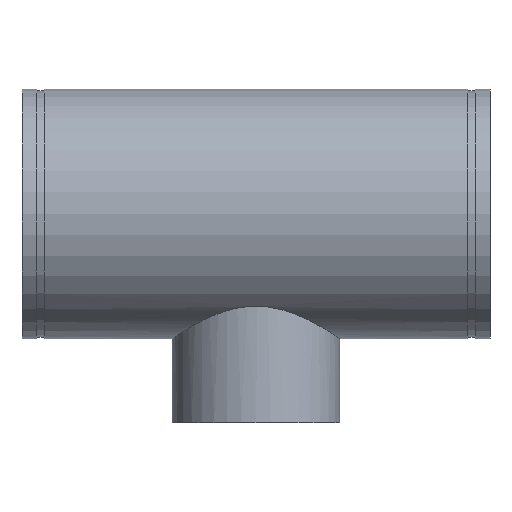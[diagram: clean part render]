
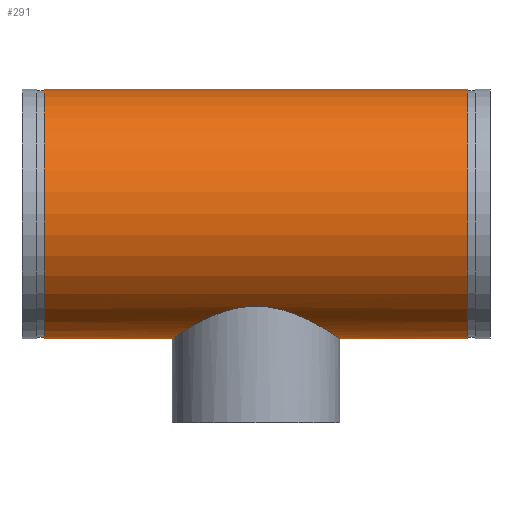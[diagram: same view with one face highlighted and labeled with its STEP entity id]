
A CAD part, top view. The second image highlights one B-rep face of the part: STEP entity #291.
In plain terms, the highlighted cylindrical face has radius 203.2 mm (diameter 406.4 mm), a full revolution.
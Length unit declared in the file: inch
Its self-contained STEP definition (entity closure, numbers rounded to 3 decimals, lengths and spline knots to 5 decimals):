
#45=B_SPLINE_CURVE_WITH_KNOTS('',3,(#511,#512,#513,#514,#515,#516,#517,
#518,#519,#520,#521,#522,#523,#524,#525,#526,#527,#528,#529,#530,#531,#532,
#533,#534,#535,#536,#537,#538,#539,#540,#541,#542,#543,#544,#545,#546,#547,
#548,#549,#550,#551,#552,#553,#554,#555,#556,#557,#558,#559,#560,#561,#562,
#563,#564,#565,#566),.UNSPECIFIED.,.F.,.F.,(4,2,2,2,2,2,2,2,2,2,2,2,2,2,
2,2,2,2,2,2,2,2,2,2,2,2,2,4),(0.,1.34803,2.69606,5.39211,
8.08817,10.78423,13.44938,16.11454,18.7797,
21.44486,24.11002,26.77518,29.44034,32.1055,
34.80155,37.49761,40.19366,41.54169,42.88972,
44.23775,45.58578,48.28183,50.97789,53.67395,
56.33911,59.00426,61.66942,64.33458),
 .UNSPECIFIED.);
#46=B_SPLINE_CURVE_WITH_KNOTS('',3,(#567,#568,#569,#570,#571,#572,#573,
#574,#575,#576,#577,#578,#579,#580,#581,#582,#583,#584,#585,#586),
 .UNSPECIFIED.,.F.,.F.,(4,2,2,2,2,2,2,2,2,4),(64.33458,66.99974,
69.6649,72.33006,74.99522,77.69127,80.38733,
83.08339,84.43141,85.77944),.UNSPECIFIED.);
#51=LINE('',#508,#59);
#59=VECTOR('',#410,8.);
#67=CYLINDRICAL_SURFACE('',#338,8.);
#77=FACE_BOUND('',#108,.T.);
#88=FACE_OUTER_BOUND('',#107,.T.);
#107=EDGE_LOOP('',(#221,#222,#223,#224));
#108=EDGE_LOOP('',(#225,#226));
#121=CIRCLE('',#321,8.);
#132=CIRCLE('',#337,8.);
#141=VERTEX_POINT('',#476);
#152=VERTEX_POINT('',#505);
#153=VERTEX_POINT('',#509);
#154=VERTEX_POINT('',#510);
#165=EDGE_CURVE('',#141,#141,#121,.T.);
#178=EDGE_CURVE('',#152,#152,#132,.T.);
#179=EDGE_CURVE('',#152,#141,#51,.T.);
#180=EDGE_CURVE('',#153,#154,#45,.T.);
#181=EDGE_CURVE('',#154,#153,#46,.T.);
#221=ORIENTED_EDGE('',*,*,#178,.T.);
#222=ORIENTED_EDGE('',*,*,#179,.T.);
#223=ORIENTED_EDGE('',*,*,#165,.T.);
#224=ORIENTED_EDGE('',*,*,#179,.F.);
#225=ORIENTED_EDGE('',*,*,#180,.F.);
#226=ORIENTED_EDGE('',*,*,#181,.F.);
#291=ADVANCED_FACE('',(#88,#77),#67,.T.);
#321=AXIS2_PLACEMENT_3D('',#477,#372,#373);
#337=AXIS2_PLACEMENT_3D('',#506,#406,#407);
#338=AXIS2_PLACEMENT_3D('',#507,#408,#409);
#372=DIRECTION('center_axis',(-1.,0.,0.));
#373=DIRECTION('ref_axis',(0.,-1.,0.));
#406=DIRECTION('center_axis',(1.,0.,0.));
#407=DIRECTION('ref_axis',(0.,-1.,0.));
#408=DIRECTION('center_axis',(-1.,0.,0.));
#409=DIRECTION('ref_axis',(0.,-1.,0.));
#410=DIRECTION('',(1.,0.,0.));
#476=CARTESIAN_POINT('',(13.562,8.,0.));
#477=CARTESIAN_POINT('Origin',(13.562,0.,0.));
#505=CARTESIAN_POINT('',(-13.562,8.,0.));
#506=CARTESIAN_POINT('Origin',(-13.562,0.,0.));
#507=CARTESIAN_POINT('Origin',(15.,0.,0.));
#508=CARTESIAN_POINT('',(15.,8.,0.));
#509=CARTESIAN_POINT('',(0.,-5.92532,-5.375));
#510=CARTESIAN_POINT('',(-5.375,-8.,0.));
#511=CARTESIAN_POINT('Ctrl Pts',(0.,-5.92532,
-5.375));
#512=CARTESIAN_POINT('Ctrl Pts',(0.17691,-5.92532,-5.375));
#513=CARTESIAN_POINT('Ctrl Pts',(0.35517,-5.9333,-5.36624));
#514=CARTESIAN_POINT('Ctrl Pts',(0.71118,-5.96521,-5.33075));
#515=CARTESIAN_POINT('Ctrl Pts',(0.88894,-5.98912,-5.30402));
#516=CARTESIAN_POINT('Ctrl Pts',(1.41691,-6.08252,-5.1973));
#517=CARTESIAN_POINT('Ctrl Pts',(1.76182,-6.17396,-5.0905));
#518=CARTESIAN_POINT('Ctrl Pts',(2.41741,-6.392,-4.81387));
#519=CARTESIAN_POINT('Ctrl Pts',(2.72877,-6.51843,-4.64381));
#520=CARTESIAN_POINT('Ctrl Pts',(3.30355,-6.77918,-4.25414));
#521=CARTESIAN_POINT('Ctrl Pts',(3.56697,-6.91332,-4.03443));
#522=CARTESIAN_POINT('Ctrl Pts',(4.03175,-7.16426,-3.56965));
#523=CARTESIAN_POINT('Ctrl Pts',(4.25096,-7.29079,-3.30768));
#524=CARTESIAN_POINT('Ctrl Pts',(4.64152,-7.5252,-2.73271));
#525=CARTESIAN_POINT('Ctrl Pts',(4.81288,-7.63294,-2.41969));
#526=CARTESIAN_POINT('Ctrl Pts',(5.0912,-7.81142,-1.76023));
#527=CARTESIAN_POINT('Ctrl Pts',(5.19838,-7.88224,-1.41309));
#528=CARTESIAN_POINT('Ctrl Pts',(5.34031,-7.97656,-0.70787));
#529=CARTESIAN_POINT('Ctrl Pts',(5.375,-8.,-0.34976));
#530=CARTESIAN_POINT('Ctrl Pts',(5.375,-8.,0.34976));
#531=CARTESIAN_POINT('Ctrl Pts',(5.34031,-7.97656,0.70787));
#532=CARTESIAN_POINT('Ctrl Pts',(5.19838,-7.88224,1.41309));
#533=CARTESIAN_POINT('Ctrl Pts',(5.0912,-7.81142,1.76023));
#534=CARTESIAN_POINT('Ctrl Pts',(4.81288,-7.63294,2.41969));
#535=CARTESIAN_POINT('Ctrl Pts',(4.64152,-7.5252,2.73271));
#536=CARTESIAN_POINT('Ctrl Pts',(4.25096,-7.29079,3.30768));
#537=CARTESIAN_POINT('Ctrl Pts',(4.03175,-7.16426,3.56965));
#538=CARTESIAN_POINT('Ctrl Pts',(3.56697,-6.91332,4.03443));
#539=CARTESIAN_POINT('Ctrl Pts',(3.30355,-6.77918,4.25414));
#540=CARTESIAN_POINT('Ctrl Pts',(2.72877,-6.51843,4.64381));
#541=CARTESIAN_POINT('Ctrl Pts',(2.41741,-6.392,4.81387));
#542=CARTESIAN_POINT('Ctrl Pts',(1.76182,-6.17396,5.0905));
#543=CARTESIAN_POINT('Ctrl Pts',(1.41691,-6.08252,5.1973));
#544=CARTESIAN_POINT('Ctrl Pts',(0.88894,-5.98912,5.30402));
#545=CARTESIAN_POINT('Ctrl Pts',(0.71118,-5.96521,5.33075));
#546=CARTESIAN_POINT('Ctrl Pts',(0.35517,-5.9333,5.36624));
#547=CARTESIAN_POINT('Ctrl Pts',(0.17691,-5.92532,5.375));
#548=CARTESIAN_POINT('Ctrl Pts',(-0.17691,-5.92532,5.375));
#549=CARTESIAN_POINT('Ctrl Pts',(-0.35517,-5.9333,5.36624));
#550=CARTESIAN_POINT('Ctrl Pts',(-0.71118,-5.96521,5.33075));
#551=CARTESIAN_POINT('Ctrl Pts',(-0.88894,-5.98912,5.30402));
#552=CARTESIAN_POINT('Ctrl Pts',(-1.41691,-6.08252,5.1973));
#553=CARTESIAN_POINT('Ctrl Pts',(-1.76182,-6.17396,5.0905));
#554=CARTESIAN_POINT('Ctrl Pts',(-2.41741,-6.392,4.81387));
#555=CARTESIAN_POINT('Ctrl Pts',(-2.72877,-6.51843,4.64381));
#556=CARTESIAN_POINT('Ctrl Pts',(-3.30355,-6.77918,4.25414));
#557=CARTESIAN_POINT('Ctrl Pts',(-3.56697,-6.91332,4.03443));
#558=CARTESIAN_POINT('Ctrl Pts',(-4.03175,-7.16426,3.56965));
#559=CARTESIAN_POINT('Ctrl Pts',(-4.25096,-7.29079,3.30768));
#560=CARTESIAN_POINT('Ctrl Pts',(-4.64152,-7.5252,2.73271));
#561=CARTESIAN_POINT('Ctrl Pts',(-4.81288,-7.63294,2.41969));
#562=CARTESIAN_POINT('Ctrl Pts',(-5.0912,-7.81142,1.76023));
#563=CARTESIAN_POINT('Ctrl Pts',(-5.19838,-7.88224,1.41309));
#564=CARTESIAN_POINT('Ctrl Pts',(-5.34031,-7.97656,0.70787));
#565=CARTESIAN_POINT('Ctrl Pts',(-5.375,-8.,0.34976));
#566=CARTESIAN_POINT('Ctrl Pts',(-5.375,-8.,0.));
#567=CARTESIAN_POINT('Ctrl Pts',(-5.375,-8.,0.));
#568=CARTESIAN_POINT('Ctrl Pts',(-5.375,-8.,-0.34976));
#569=CARTESIAN_POINT('Ctrl Pts',(-5.34031,-7.97656,-0.70787));
#570=CARTESIAN_POINT('Ctrl Pts',(-5.19838,-7.88224,-1.41309));
#571=CARTESIAN_POINT('Ctrl Pts',(-5.0912,-7.81142,-1.76023));
#572=CARTESIAN_POINT('Ctrl Pts',(-4.81288,-7.63294,-2.41969));
#573=CARTESIAN_POINT('Ctrl Pts',(-4.64152,-7.5252,-2.73271));
#574=CARTESIAN_POINT('Ctrl Pts',(-4.25096,-7.29079,-3.30768));
#575=CARTESIAN_POINT('Ctrl Pts',(-4.03175,-7.16426,-3.56965));
#576=CARTESIAN_POINT('Ctrl Pts',(-3.56697,-6.91332,-4.03443));
#577=CARTESIAN_POINT('Ctrl Pts',(-3.30355,-6.77918,-4.25414));
#578=CARTESIAN_POINT('Ctrl Pts',(-2.72877,-6.51843,-4.64381));
#579=CARTESIAN_POINT('Ctrl Pts',(-2.41741,-6.392,-4.81387));
#580=CARTESIAN_POINT('Ctrl Pts',(-1.76182,-6.17396,-5.0905));
#581=CARTESIAN_POINT('Ctrl Pts',(-1.41691,-6.08252,-5.1973));
#582=CARTESIAN_POINT('Ctrl Pts',(-0.88894,-5.98912,-5.30402));
#583=CARTESIAN_POINT('Ctrl Pts',(-0.71118,-5.96521,-5.33075));
#584=CARTESIAN_POINT('Ctrl Pts',(-0.35517,-5.9333,-5.36624));
#585=CARTESIAN_POINT('Ctrl Pts',(-0.17691,-5.92532,-5.375));
#586=CARTESIAN_POINT('Ctrl Pts',(0.,-5.92532,-5.375));
